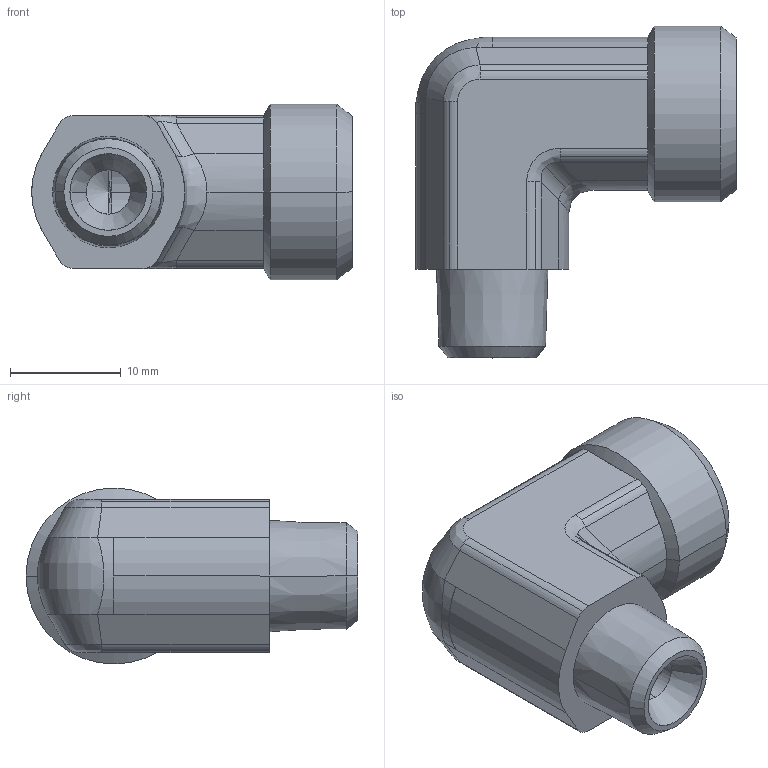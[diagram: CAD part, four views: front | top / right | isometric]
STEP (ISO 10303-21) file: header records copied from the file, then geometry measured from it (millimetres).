
FILE_DESCRIPTION((''),'2;1');
FILE_NAME('102028.stp','2007-10-30T16:36:15',(''),(''),'AutoCAD STEP 2000i','AutoCAD 2000i',', , ');
FILE_SCHEMA(('CONFIG_CONTROL_DESIGN'));
Length unit declared in the file: millimetre
Products named in the file (2): 102028.0; 3090#0
Assembly tree (1 placements, depth 2):
  102028.0
    3090#0
Bounding box: 28.9 x 29.93 x 15.85 mm (x, y, z)
Volume: 4810 mm3; surface area: 3006.1 mm2
Topology: 1 solids, 1 shells, 92 faces, 224 edges, 134 vertices
Faces by surface type: cylinder 38, plane 22, cone 18, bspline 14
Entity records: 3588 total; most frequent: CARTESIAN_POINT 1340, DIRECTION 467, ORIENTED_EDGE 444, EDGE_CURVE 222, AXIS2_PLACEMENT_3D 189, VERTEX_POINT 134, CIRCLE 99, EDGE_LOOP 96
